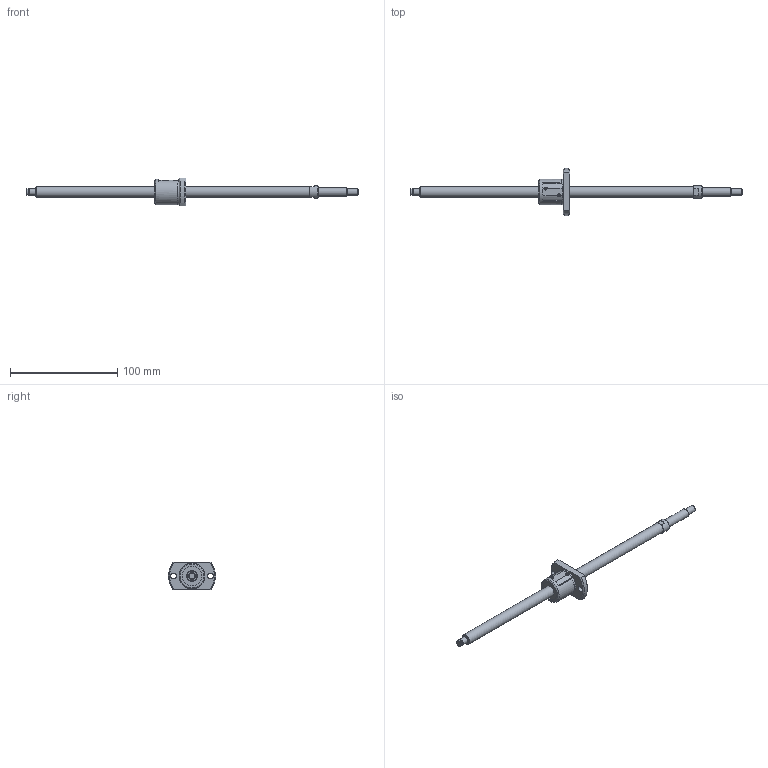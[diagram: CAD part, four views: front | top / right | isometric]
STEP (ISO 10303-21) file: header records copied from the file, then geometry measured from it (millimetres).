
FILE_DESCRIPTION(/* description */ ('STEP AP214'),/* implementation_level */ '2;1');
FILE_NAME(/* name */ 'SG1004-251R310C5B0X(111)',/* time_stamp */ '2026-07-24T15:15:33+02:00',/* author */ ('License CC BY-ND 4.0'),/* organization */ ('CADENAS'),/* preprocessor_version */ 'ST-DEVELOPER v20',/* originating_system */ 'PARTsolutions',/* authorisation */ ' ');
FILE_SCHEMA (('AUTOMOTIVE_DESIGN {1 0 10303 214 3 1 1}'));
Length unit declared in the file: millimetre
Products named in the file (3): SG1004-251R310C5B0X(111); SG1004-251R310C5B_shaft; SG1004 C5_nut
Assembly tree (2 placements, depth 2):
  SG1004-251R310C5B0X(111)
    SG1004-251R310C5B_shaft
    SG1004 C5_nut
Bounding box: 310 x 44 x 26 mm (x, y, z)
Volume: 36347.9 mm3; surface area: 15048 mm2
Topology: 2 solids, 2 shells, 79 faces, 188 edges, 123 vertices
Faces by surface type: plane 38, cylinder 26, cone 14, torus 1
Full cylindrical faces by diameter (mm): 5.5 x2, 5.7 x1, 6 x3, 8 x1, 10 x2, 11.5 x1, 18 x2, 23.5 x1, 24 x1
Entity records: 2197 total; most frequent: CARTESIAN_POINT 408, DIRECTION 374, ORIENTED_EDGE 306, AXIS2_PLACEMENT_3D 157, EDGE_CURVE 153, EDGE_LOOP 120, FACE_BOUND 120, VERTEX_POINT 113
